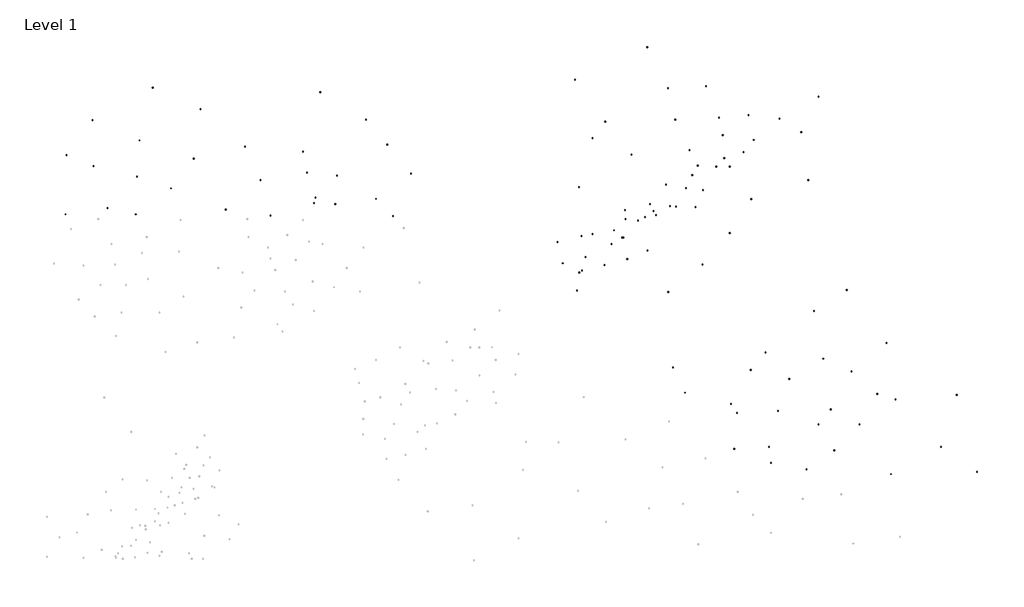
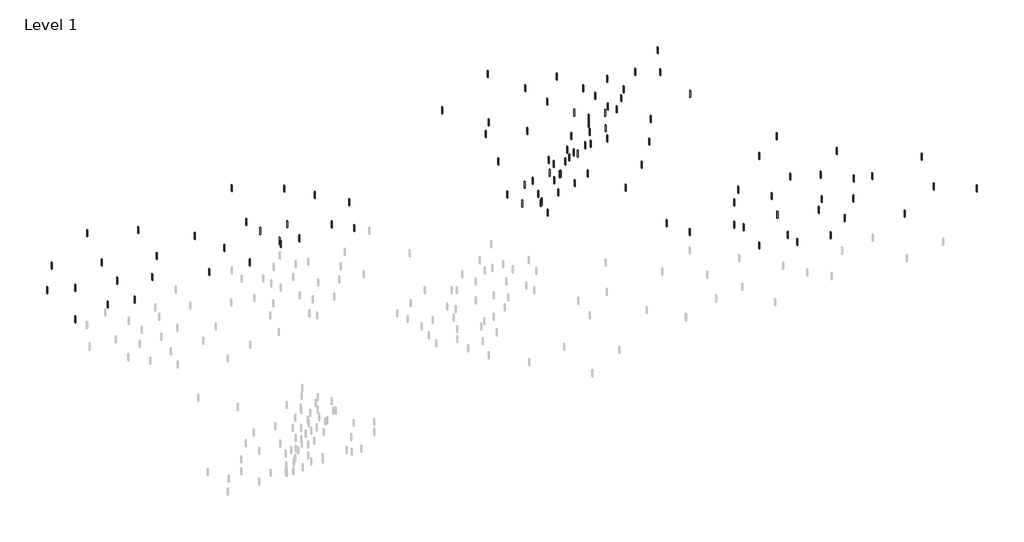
# One storey, part 3 of 3: 111 columns.
"""IFC4 building model written with IfcOpenShell, lengths in millimetres."""

from ifc_helpers import new_model, si_unit, origin, place, context, project, spatial, transform, mapped, element, save
from components import concrete_rectangular_column_12_x_18_4e544043

model = new_model("IFC4")

# Units and contexts
model_context = context("Model", 3, world=origin())
ifc_project = project(units=[si_unit("LENGTHUNIT", "METRE", prefix="MILLI")], contexts=[model_context])

# Site, building, storey
site = spatial("IfcSite", under=ifc_project)
building = spatial("IfcBuilding", under=site)
storey = spatial("IfcBuildingStorey", under=building, Name="Level 1", Elevation=0.0)

# Columns
placement = place(None, origin())
concrete_rectangular_column_12_x_18_shape = concrete_rectangular_column_12_x_18_4e544043(model_context)
element("IfcColumn", 1, ObjectType="Concrete-Rectangular-Column : 12 x 18", at=placement, inside=storey, context=model_context, shape_type="MappedRepresentation", body=[
    mapped(concrete_rectangular_column_12_x_18_shape, transform((331236.2656156, 171995.4418633, 0.0), x_axis=(1.0, 0.0, 0.0), y_axis=(0.0, 1.0, 0.0), z_axis=(0.0, 0.0, 1.0))),
])
element("IfcColumn", 2, ObjectType="Concrete-Rectangular-Column : 12 x 18", at=placement, inside=storey, context=model_context, shape_type="MappedRepresentation", body=[
    mapped(concrete_rectangular_column_12_x_18_shape, transform((381102.6694144, 178499.7554022, 0.0), x_axis=(1.0, 0.0, 0.0), y_axis=(0.0, 1.0, 0.0), z_axis=(0.0, 0.0, 1.0))),
])
element("IfcColumn", 3, ObjectType="Concrete-Rectangular-Column : 12 x 18", at=placement, inside=storey, context=model_context, shape_type="MappedRepresentation", body=[
    mapped(concrete_rectangular_column_12_x_18_shape, transform((393027.2442358, 211021.3230971, 0.0), x_axis=(1.0, 0.0, 0.0), y_axis=(0.0, 1.0, 0.0), z_axis=(0.0, 0.0, 1.0))),
])
element("IfcColumn", 4, ObjectType="Concrete-Rectangular-Column : 12 x 18", at=placement, inside=storey, context=model_context, shape_type="MappedRepresentation", body=[
    mapped(concrete_rectangular_column_12_x_18_shape, transform((461322.5363951, 170911.3896068, 0.0), x_axis=(1.0, 0.0, 0.0), y_axis=(0.0, 1.0, 0.0), z_axis=(0.0, 0.0, 1.0))),
])
element("IfcColumn", 5, ObjectType="Concrete-Rectangular-Column : 12 x 18", at=placement, inside=storey, context=model_context, shape_type="MappedRepresentation", body=[
    mapped(concrete_rectangular_column_12_x_18_shape, transform((453734.1705996, 145978.1877074, 0.0), x_axis=(1.0, 0.0, 0.0), y_axis=(0.0, 1.0, 0.0), z_axis=(0.0, 0.0, 1.0))),
])
element("IfcColumn", 6, ObjectType="Concrete-Rectangular-Column : 12 x 18", at=placement, inside=storey, context=model_context, shape_type="MappedRepresentation", body=[
    mapped(concrete_rectangular_column_12_x_18_shape, transform((429885.0209567, 132969.5606294, 0.0), x_axis=(1.0, 0.0, 0.0), y_axis=(0.0, 1.0, 0.0), z_axis=(0.0, 0.0, 1.0))),
])
element("IfcColumn", 7, ObjectType="Concrete-Rectangular-Column : 12 x 18", at=placement, inside=storey, context=model_context, shape_type="MappedRepresentation", body=[
    mapped(concrete_rectangular_column_12_x_18_shape, transform((414708.2893657, 156818.7102723, 0.0), x_axis=(1.0, 0.0, 0.0), y_axis=(0.0, 1.0, 0.0), z_axis=(0.0, 0.0, 1.0))),
])
element("IfcColumn", 8, ObjectType="Concrete-Rectangular-Column : 12 x 18", at=placement, inside=storey, context=model_context, shape_type="MappedRepresentation", body=[
    mapped(concrete_rectangular_column_12_x_18_shape, transform((432053.1254697, 168743.2850938, 0.0), x_axis=(1.0, 0.0, 0.0), y_axis=(0.0, 1.0, 0.0), z_axis=(0.0, 0.0, 1.0))),
])
element("IfcColumn", 9, ObjectType="Concrete-Rectangular-Column : 12 x 18", at=placement, inside=storey, context=model_context, shape_type="MappedRepresentation", body=[
    mapped(concrete_rectangular_column_12_x_18_shape, transform((397363.4532618, 188256.2257107, 0.0), x_axis=(1.0, 0.0, 0.0), y_axis=(0.0, 1.0, 0.0), z_axis=(0.0, 0.0, 1.0))),
])
element("IfcColumn", 10, ObjectType="Concrete-Rectangular-Column : 12 x 18", at=placement, inside=storey, context=model_context, shape_type="MappedRepresentation", body=[
    mapped(concrete_rectangular_column_12_x_18_shape, transform((375682.4081319, 163323.0238113, 0.0), x_axis=(1.0, 0.0, 0.0), y_axis=(0.0, 1.0, 0.0), z_axis=(0.0, 0.0, 1.0))),
])
element("IfcColumn", 11, ObjectType="Concrete-Rectangular-Column : 12 x 18", at=placement, inside=storey, context=model_context, shape_type="MappedRepresentation", body=[
    mapped(concrete_rectangular_column_12_x_18_shape, transform((371346.1991059, 145978.1877074, 0.0), x_axis=(1.0, 0.0, 0.0), y_axis=(0.0, 1.0, 0.0), z_axis=(0.0, 0.0, 1.0))),
])
element("IfcColumn", 12, ObjectType="Concrete-Rectangular-Column : 12 x 18", at=placement, inside=storey, context=model_context, shape_type="MappedRepresentation", body=[
    mapped(concrete_rectangular_column_12_x_18_shape, transform((356169.467515, 162238.9715548, 0.0), x_axis=(1.0, 0.0, 0.0), y_axis=(0.0, 1.0, 0.0), z_axis=(0.0, 0.0, 1.0))),
])
element("IfcColumn", 13, ObjectType="Concrete-Rectangular-Column : 12 x 18", at=placement, inside=storey, context=model_context, shape_type="MappedRepresentation", body=[
    mapped(concrete_rectangular_column_12_x_18_shape, transform((471079.0067035, 134053.6128859, 0.0), x_axis=(1.0, 0.0, 0.0), y_axis=(0.0, 1.0, 0.0), z_axis=(0.0, 0.0, 1.0))),
])
element("IfcColumn", 14, ObjectType="Concrete-Rectangular-Column : 12 x 18", at=placement, inside=storey, context=model_context, shape_type="MappedRepresentation", body=[
    mapped(concrete_rectangular_column_12_x_18_shape, transform((427716.9164437, 195844.5915062, 0.0), x_axis=(1.0, 0.0, 0.0), y_axis=(0.0, 1.0, 0.0), z_axis=(0.0, 0.0, 1.0))),
])
element("IfcColumn", 15, ObjectType="Concrete-Rectangular-Column : 12 x 18", at=placement, inside=storey, context=model_context, shape_type="MappedRepresentation", body=[
    mapped(concrete_rectangular_column_12_x_18_shape, transform((362673.781054, 182835.9644282, 0.0), x_axis=(1.0, 0.0, 0.0), y_axis=(0.0, 1.0, 0.0), z_axis=(0.0, 0.0, 1.0))),
])
element("IfcColumn", 16, ObjectType="Concrete-Rectangular-Column : 12 x 18", at=placement, inside=storey, context=model_context, shape_type="MappedRepresentation", body=[
    mapped(concrete_rectangular_column_12_x_18_shape, transform((372430.2513624, 138389.8219119, 0.0), x_axis=(1.0, 0.0, 0.0), y_axis=(0.0, 1.0, 0.0), z_axis=(0.0, 0.0, 1.0))),
])
element("IfcColumn", 17, ObjectType="Concrete-Rectangular-Column : 12 x 18", at=placement, inside=storey, context=model_context, shape_type="MappedRepresentation", body=[
    mapped(concrete_rectangular_column_12_x_18_shape, transform((395195.3487488, 156818.7102723, 0.0), x_axis=(1.0, 0.0, 0.0), y_axis=(0.0, 1.0, 0.0), z_axis=(0.0, 0.0, 1.0))),
])
element("IfcColumn", 18, ObjectType="Concrete-Rectangular-Column : 12 x 18", at=placement, inside=storey, context=model_context, shape_type="MappedRepresentation", body=[
    mapped(concrete_rectangular_column_12_x_18_shape, transform((325400.2702927, 184052.0542495, 0.0), x_axis=(1.0, 0.0, 0.0), y_axis=(0.0, 1.0, 0.0), z_axis=(0.0, 0.0, 1.0))),
])
element("IfcColumn", 19, ObjectType="Concrete-Rectangular-Column : 12 x 18", at=placement, inside=storey, context=model_context, shape_type="MappedRepresentation", body=[
    mapped(concrete_rectangular_column_12_x_18_shape, transform((35133.3520887, 285803.9430025, 0.0), x_axis=(1.0, 0.0, 0.0), y_axis=(0.0, 1.0, 0.0), z_axis=(0.0, 0.0, 1.0))),
])
element("IfcColumn", 20, ObjectType="Concrete-Rectangular-Column : 12 x 18", at=placement, inside=storey, context=model_context, shape_type="MappedRepresentation", body=[
    mapped(concrete_rectangular_column_12_x_18_shape, transform((68220.2581855, 257443.7161566, 0.0), x_axis=(1.0, 0.0, 0.0), y_axis=(0.0, 1.0, 0.0), z_axis=(0.0, 0.0, 1.0))),
])
element("IfcColumn", 21, ObjectType="Concrete-Rectangular-Column : 12 x 18", at=placement, inside=storey, context=model_context, shape_type="MappedRepresentation", body=[
    mapped(concrete_rectangular_column_12_x_18_shape, transform((69961.6742959, 292893.999714, 0.0), x_axis=(1.0, 0.0, 0.0), y_axis=(0.0, 1.0, 0.0), z_axis=(0.0, 0.0, 1.0))),
])
element("IfcColumn", 22, ObjectType="Concrete-Rectangular-Column : 12 x 18", at=placement, inside=storey, context=model_context, shape_type="MappedRepresentation", body=[
    mapped(concrete_rectangular_column_12_x_18_shape, transform((34552.8800519, 257443.7161566, 0.0), x_axis=(1.0, 0.0, 0.0), y_axis=(0.0, 1.0, 0.0), z_axis=(0.0, 0.0, 1.0))),
])
element("IfcColumn", 23, ObjectType="Concrete-Rectangular-Column : 12 x 18", at=placement, inside=storey, context=model_context, shape_type="MappedRepresentation", body=[
    mapped(concrete_rectangular_column_12_x_18_shape, transform((132652.6542689, 256898.3271788, 0.0), x_axis=(1.0, 0.0, 0.0), y_axis=(0.0, 1.0, 0.0), z_axis=(0.0, 0.0, 1.0))),
])
element("IfcColumn", 24, ObjectType="Concrete-Rectangular-Column : 12 x 18", at=placement, inside=storey, context=model_context, shape_type="MappedRepresentation", body=[
    mapped(concrete_rectangular_column_12_x_18_shape, transform((164578.6162922, 275986.941402, 0.0), x_axis=(1.0, 0.0, 0.0), y_axis=(0.0, 1.0, 0.0), z_axis=(0.0, 0.0, 1.0))),
])
element("IfcColumn", 25, ObjectType="Concrete-Rectangular-Column : 12 x 18", at=placement, inside=storey, context=model_context, shape_type="MappedRepresentation", body=[
    mapped(concrete_rectangular_column_12_x_18_shape, transform((128008.8779746, 273805.3854908, 0.0), x_axis=(1.0, 0.0, 0.0), y_axis=(0.0, 1.0, 0.0), z_axis=(0.0, 0.0, 1.0))),
])
element("IfcColumn", 26, ObjectType="Concrete-Rectangular-Column : 12 x 18", at=placement, inside=storey, context=model_context, shape_type="MappedRepresentation", body=[
    mapped(concrete_rectangular_column_12_x_18_shape, transform((148325.3992622, 287440.1099359, 0.0), x_axis=(1.0, 0.0, 0.0), y_axis=(0.0, 1.0, 0.0), z_axis=(0.0, 0.0, 1.0))),
])
element("IfcColumn", 27, ObjectType="Concrete-Rectangular-Column : 12 x 18", at=placement, inside=storey, context=model_context, shape_type="MappedRepresentation", body=[
    mapped(concrete_rectangular_column_12_x_18_shape, transform((153549.6475933, 262897.6059346, 0.0), x_axis=(1.0, 0.0, 0.0), y_axis=(0.0, 1.0, 0.0), z_axis=(0.0, 0.0, 1.0))),
])
element("IfcColumn", 28, ObjectType="Concrete-Rectangular-Column : 12 x 18", at=placement, inside=storey, context=model_context, shape_type="MappedRepresentation", body=[
    mapped(concrete_rectangular_column_12_x_18_shape, transform((163726.0692405, 262351.3973544, 0.0), x_axis=(1.0, 0.0, 0.0), y_axis=(0.0, 1.0, 0.0), z_axis=(0.0, 0.0, 1.0))),
])
element("IfcColumn", 29, ObjectType="Concrete-Rectangular-Column : 12 x 18", at=placement, inside=storey, context=model_context, shape_type="MappedRepresentation", body=[
    mapped(concrete_rectangular_column_12_x_18_shape, transform((154300.0967984, 265514.3536267, 0.0), x_axis=(1.0, 0.0, 0.0), y_axis=(0.0, 1.0, 0.0), z_axis=(0.0, 0.0, 1.0))),
])
element("IfcColumn", 30, ObjectType="Concrete-Rectangular-Column : 12 x 18", at=placement, inside=storey, context=model_context, shape_type="MappedRepresentation", body=[
    mapped(concrete_rectangular_column_12_x_18_shape, transform((150260.3943232, 277533.5874615, 0.0), x_axis=(1.0, 0.0, 0.0), y_axis=(0.0, 1.0, 0.0), z_axis=(0.0, 0.0, 1.0))),
])
element("IfcColumn", 31, ObjectType="Concrete-Rectangular-Column : 12 x 18", at=placement, inside=storey, context=model_context, shape_type="MappedRepresentation", body=[
    mapped(concrete_rectangular_column_12_x_18_shape, transform((178538.3116495, 302837.23764, 0.0), x_axis=(1.0, 0.0, 0.0), y_axis=(0.0, 1.0, 0.0), z_axis=(0.0, 0.0, 1.0))),
])
element("IfcColumn", 32, ObjectType="Concrete-Rectangular-Column : 12 x 18", at=placement, inside=storey, context=model_context, shape_type="MappedRepresentation", body=[
    mapped(concrete_rectangular_column_12_x_18_shape, transform((323088.3128112, 318012.5616179, 0.0), x_axis=(1.0, 0.0, 0.0), y_axis=(0.0, 1.0, 0.0), z_axis=(0.0, 0.0, 1.0))),
])
element("IfcColumn", 33, ObjectType="Concrete-Rectangular-Column : 12 x 18", at=placement, inside=storey, context=model_context, shape_type="MappedRepresentation", body=[
    mapped(concrete_rectangular_column_12_x_18_shape, transform((200083.3915172, 276900.996207, 0.0), x_axis=(1.0, 0.0, 0.0), y_axis=(0.0, 1.0, 0.0), z_axis=(0.0, 0.0, 1.0))),
])
element("IfcColumn", 34, ObjectType="Concrete-Rectangular-Column : 12 x 18", at=placement, inside=storey, context=model_context, shape_type="MappedRepresentation", body=[
    mapped(concrete_rectangular_column_12_x_18_shape, transform((191330.702821, 256658.0760642, 0.0), x_axis=(1.0, 0.0, 0.0), y_axis=(0.0, 1.0, 0.0), z_axis=(0.0, 0.0, 1.0))),
])
element("IfcColumn", 35, ObjectType="Concrete-Rectangular-Column : 12 x 18", at=placement, inside=storey, context=model_context, shape_type="MappedRepresentation", body=[
    mapped(concrete_rectangular_column_12_x_18_shape, transform((183251.2978706, 264881.7623722, 0.0), x_axis=(1.0, 0.0, 0.0), y_axis=(0.0, 1.0, 0.0), z_axis=(0.0, 0.0, 1.0))),
])
element("IfcColumn", 36, ObjectType="Concrete-Rectangular-Column : 12 x 18", at=placement, inside=storey, context=model_context, shape_type="MappedRepresentation", body=[
    mapped(concrete_rectangular_column_12_x_18_shape, transform((188637.5678375, 290818.0038052, 0.0), x_axis=(1.0, 0.0, 0.0), y_axis=(0.0, 1.0, 0.0), z_axis=(0.0, 0.0, 1.0))),
])
element("IfcColumn", 37, ObjectType="Concrete-Rectangular-Column : 12 x 18", at=placement, inside=storey, context=model_context, shape_type="MappedRepresentation", body=[
    mapped(concrete_rectangular_column_12_x_18_shape, transform((293022.5069207, 301897.699731, 0.0), x_axis=(1.0, 0.0, 0.0), y_axis=(0.0, 1.0, 0.0), z_axis=(0.0, 0.0, 1.0))),
])
element("IfcColumn", 38, ObjectType="Concrete-Rectangular-Column : 12 x 18", at=placement, inside=storey, context=model_context, shape_type="MappedRepresentation", body=[
    mapped(concrete_rectangular_column_12_x_18_shape, transform((68793.0610734, 275635.8136981, 0.0), x_axis=(1.0, 0.0, 0.0), y_axis=(0.0, 1.0, 0.0), z_axis=(0.0, 0.0, 1.0))),
])
element("IfcColumn", 39, ObjectType="Concrete-Rectangular-Column : 12 x 18", at=placement, inside=storey, context=model_context, shape_type="MappedRepresentation", body=[
    mapped(concrete_rectangular_column_12_x_18_shape, transform((54654.1024102, 260453.623591, 0.0), x_axis=(1.0, 0.0, 0.0), y_axis=(0.0, 1.0, 0.0), z_axis=(0.0, 0.0, 1.0))),
])
element("IfcColumn", 40, ObjectType="Concrete-Rectangular-Column : 12 x 18", at=placement, inside=storey, context=model_context, shape_type="MappedRepresentation", body=[
    mapped(concrete_rectangular_column_12_x_18_shape, transform((316094.4445972, 258958.9489747, 0.0), x_axis=(1.0, 0.0, 0.0), y_axis=(0.0, 1.0, 0.0), z_axis=(0.0, 0.0, 1.0))),
])
element("IfcColumn", 41, ObjectType="Concrete-Rectangular-Column : 12 x 18", at=placement, inside=storey, context=model_context, shape_type="MappedRepresentation", body=[
    mapped(concrete_rectangular_column_12_x_18_shape, transform((305606.372775, 286031.9169447, 0.0), x_axis=(1.0, 0.0, 0.0), y_axis=(0.0, 1.0, 0.0), z_axis=(0.0, 0.0, 1.0))),
])
element("IfcColumn", 42, ObjectType="Concrete-Rectangular-Column : 12 x 18", at=placement, inside=storey, context=model_context, shape_type="MappedRepresentation", body=[
    mapped(concrete_rectangular_column_12_x_18_shape, transform((280435.0004016, 270561.6495333, 0.0), x_axis=(1.0, 0.0, 0.0), y_axis=(0.0, 1.0, 0.0), z_axis=(0.0, 0.0, 1.0))),
])
element("IfcColumn", 43, ObjectType="Concrete-Rectangular-Column : 12 x 18", at=placement, inside=storey, context=model_context, shape_type="MappedRepresentation", body=[
    mapped(concrete_rectangular_column_12_x_18_shape, transform((390210.1521411, 273784.6219106, 0.0), x_axis=(1.0, 0.0, 0.0), y_axis=(0.0, 1.0, 0.0), z_axis=(0.0, 0.0, 1.0))),
])
element("IfcColumn", 44, ObjectType="Concrete-Rectangular-Column : 12 x 18", at=placement, inside=storey, context=model_context, shape_type="MappedRepresentation", body=[
    mapped(concrete_rectangular_column_12_x_18_shape, transform((395104.5856581, 313749.4793902, 0.0), x_axis=(1.0, 0.0, 0.0), y_axis=(0.0, 1.0, 0.0), z_axis=(0.0, 0.0, 1.0))),
])
element("IfcColumn", 45, ObjectType="Concrete-Rectangular-Column : 12 x 18", at=placement, inside=storey, context=model_context, shape_type="MappedRepresentation", body=[
    mapped(concrete_rectangular_column_12_x_18_shape, transform((362941.1654032, 264760.299254, 0.0), x_axis=(1.0, 0.0, 0.0), y_axis=(0.0, 1.0, 0.0), z_axis=(0.0, 0.0, 1.0))),
])
element("IfcColumn", 46, ObjectType="Concrete-Rectangular-Column : 12 x 18", at=placement, inside=storey, context=model_context, shape_type="MappedRepresentation", body=[
    mapped(concrete_rectangular_column_12_x_18_shape, transform((369659.3234416, 191256.0739077, 0.0), x_axis=(1.0, 0.0, 0.0), y_axis=(0.0, 1.0, 0.0), z_axis=(0.0, 0.0, 1.0))),
])
element("IfcColumn", 47, ObjectType="Concrete-Rectangular-Column : 12 x 18", at=placement, inside=storey, context=model_context, shape_type="MappedRepresentation", body=[
    mapped(concrete_rectangular_column_12_x_18_shape, transform((401008.1059618, 164032.1311928, 0.0), x_axis=(1.0, 0.0, 0.0), y_axis=(0.0, 1.0, 0.0), z_axis=(0.0, 0.0, 1.0))),
])
element("IfcColumn", 48, ObjectType="Concrete-Rectangular-Column : 12 x 18", at=placement, inside=storey, context=model_context, shape_type="MappedRepresentation", body=[
    mapped(concrete_rectangular_column_12_x_18_shape, transform((353159.9642205, 166507.035076, 0.0), x_axis=(1.0, 0.0, 0.0), y_axis=(0.0, 1.0, 0.0), z_axis=(0.0, 0.0, 1.0))),
])
element("IfcColumn", 49, ObjectType="Concrete-Rectangular-Column : 12 x 18", at=placement, inside=storey, context=model_context, shape_type="MappedRepresentation", body=[
    mapped(concrete_rectangular_column_12_x_18_shape, transform((354809.9001426, 145057.8680885, 0.0), x_axis=(1.0, 0.0, 0.0), y_axis=(0.0, 1.0, 0.0), z_axis=(0.0, 0.0, 1.0))),
])
element("IfcColumn", 50, ObjectType="Concrete-Rectangular-Column : 12 x 18", at=placement, inside=storey, context=model_context, shape_type="MappedRepresentation", body=[
    mapped(concrete_rectangular_column_12_x_18_shape, transform((402658.0418839, 144232.9001274, 0.0), x_axis=(1.0, 0.0, 0.0), y_axis=(0.0, 1.0, 0.0), z_axis=(0.0, 0.0, 1.0))),
])
element("IfcColumn", 51, ObjectType="Concrete-Rectangular-Column : 12 x 18", at=placement, inside=storey, context=model_context, shape_type="MappedRepresentation", body=[
    mapped(concrete_rectangular_column_12_x_18_shape, transform((389458.554507, 135158.2525558, 0.0), x_axis=(1.0, 0.0, 0.0), y_axis=(0.0, 1.0, 0.0), z_axis=(0.0, 0.0, 1.0))),
])
element("IfcColumn", 52, ObjectType="Concrete-Rectangular-Column : 12 x 18", at=placement, inside=storey, context=model_context, shape_type="MappedRepresentation", body=[
    mapped(concrete_rectangular_column_12_x_18_shape, transform((423282.2409104, 171456.8428423, 0.0), x_axis=(1.0, 0.0, 0.0), y_axis=(0.0, 1.0, 0.0), z_axis=(0.0, 0.0, 1.0))),
])
element("IfcColumn", 53, ObjectType="Concrete-Rectangular-Column : 12 x 18", at=placement, inside=storey, context=model_context, shape_type="MappedRepresentation", body=[
    mapped(concrete_rectangular_column_12_x_18_shape, transform((410907.7214945, 182181.4263361, 0.0), x_axis=(1.0, 0.0, 0.0), y_axis=(0.0, 1.0, 0.0), z_axis=(0.0, 0.0, 1.0))),
])
element("IfcColumn", 54, ObjectType="Concrete-Rectangular-Column : 12 x 18", at=placement, inside=storey, context=model_context, shape_type="MappedRepresentation", body=[
    mapped(concrete_rectangular_column_12_x_18_shape, transform((281833.4099779, 230596.7920537, 0.0), x_axis=(1.0, 0.0, 0.0), y_axis=(0.0, 1.0, 0.0), z_axis=(0.0, 0.0, 1.0))),
])
element("IfcColumn", 55, ObjectType="Concrete-Rectangular-Column : 12 x 18", at=placement, inside=storey, context=model_context, shape_type="MappedRepresentation", body=[
    mapped(concrete_rectangular_column_12_x_18_shape, transform((302761.1763556, 255238.1331991, 0.0), x_axis=(1.0, 0.0, 0.0), y_axis=(0.0, 1.0, 0.0), z_axis=(0.0, 0.0, 1.0))),
])
element("IfcColumn", 56, ObjectType="Concrete-Rectangular-Column : 12 x 18", at=placement, inside=storey, context=model_context, shape_type="MappedRepresentation", body=[
    mapped(concrete_rectangular_column_12_x_18_shape, transform((323149.9879781, 220255.9910149, 0.0), x_axis=(1.0, 0.0, 0.0), y_axis=(0.0, 1.0, 0.0), z_axis=(0.0, 0.0, 1.0))),
])
element("IfcColumn", 57, ObjectType="Concrete-Rectangular-Column : 12 x 18", at=placement, inside=storey, context=model_context, shape_type="MappedRepresentation", body=[
    mapped(concrete_rectangular_column_12_x_18_shape, transform((286903.2117604, 293875.1260591, 0.0), x_axis=(1.0, 0.0, 0.0), y_axis=(0.0, 1.0, 0.0), z_axis=(0.0, 0.0, 1.0))),
])
element("IfcColumn", 58, ObjectType="Concrete-Rectangular-Column : 12 x 18", at=placement, inside=storey, context=model_context, shape_type="MappedRepresentation", body=[
    mapped(concrete_rectangular_column_12_x_18_shape, transform((347503.2907493, 303795.4350367, 0.0), x_axis=(1.0, 0.0, 0.0), y_axis=(0.0, 1.0, 0.0), z_axis=(0.0, 0.0, 1.0))),
])
element("IfcColumn", 59, ObjectType="Concrete-Rectangular-Column : 12 x 18", at=placement, inside=storey, context=model_context, shape_type="MappedRepresentation", body=[
    mapped(concrete_rectangular_column_12_x_18_shape, transform((337308.8849381, 280822.0879307, 0.0), x_axis=(1.0, 0.0, 0.0), y_axis=(0.0, 1.0, 0.0), z_axis=(0.0, 0.0, 1.0))),
])
element("IfcColumn", 60, ObjectType="Concrete-Rectangular-Column : 12 x 18", at=placement, inside=storey, context=model_context, shape_type="MappedRepresentation", body=[
    mapped(concrete_rectangular_column_12_x_18_shape, transform((326548.1232485, 302751.1919865, 0.0), x_axis=(1.0, 0.0, 0.0), y_axis=(0.0, 1.0, 0.0), z_axis=(0.0, 0.0, 1.0))),
])
element("IfcColumn", 61, ObjectType="Concrete-Rectangular-Column : 12 x 18", at=placement, inside=storey, context=model_context, shape_type="MappedRepresentation", body=[
    mapped(concrete_rectangular_column_12_x_18_shape, transform((341273.3760869, 318936.9592657, 0.0), x_axis=(1.0, 0.0, 0.0), y_axis=(0.0, 1.0, 0.0), z_axis=(0.0, 0.0, 1.0))),
])
element("IfcColumn", 62, ObjectType="Concrete-Rectangular-Column : 12 x 18", at=placement, inside=storey, context=model_context, shape_type="MappedRepresentation", body=[
    mapped(concrete_rectangular_column_12_x_18_shape, transform((313146.1877921, 337645.4036888, 0.0), x_axis=(1.0, 0.0, 0.0), y_axis=(0.0, 1.0, 0.0), z_axis=(0.0, 0.0, 1.0))),
])
element("IfcColumn", 63, ObjectType="Concrete-Rectangular-Column : 12 x 18", at=placement, inside=storey, context=model_context, shape_type="MappedRepresentation", body=[
    mapped(concrete_rectangular_column_12_x_18_shape, transform((278598.4792096, 321981.7579347, 0.0), x_axis=(1.0, 0.0, 0.0), y_axis=(0.0, 1.0, 0.0), z_axis=(0.0, 0.0, 1.0))),
])
element("IfcColumn", 64, ObjectType="Concrete-Rectangular-Column : 12 x 18", at=placement, inside=storey, context=model_context, shape_type="MappedRepresentation", body=[
    mapped(concrete_rectangular_column_12_x_18_shape, transform((156542.677718, 316012.6358556, 0.0), x_axis=(1.0, 0.0, 0.0), y_axis=(0.0, 1.0, 0.0), z_axis=(0.0, 0.0, 1.0))),
])
element("IfcColumn", 65, ObjectType="Concrete-Rectangular-Column : 12 x 18", at=placement, inside=storey, context=model_context, shape_type="MappedRepresentation", body=[
    mapped(concrete_rectangular_column_12_x_18_shape, transform((96007.7361272, 284243.9030565, 0.0), x_axis=(1.0, 0.0, 0.0), y_axis=(0.0, 1.0, 0.0), z_axis=(0.0, 0.0, 1.0))),
])
element("IfcColumn", 66, ObjectType="Concrete-Rectangular-Column : 12 x 18", at=placement, inside=storey, context=model_context, shape_type="MappedRepresentation", body=[
    mapped(concrete_rectangular_column_12_x_18_shape, transform((111277.8114835, 259648.755083, 0.0), x_axis=(1.0, 0.0, 0.0), y_axis=(0.0, 1.0, 0.0), z_axis=(0.0, 0.0, 1.0))),
])
element("IfcColumn", 67, ObjectType="Concrete-Rectangular-Column : 12 x 18", at=placement, inside=storey, context=model_context, shape_type="MappedRepresentation", body=[
    mapped(concrete_rectangular_column_12_x_18_shape, transform((120548.9286641, 289880.2911337, 0.0), x_axis=(1.0, 0.0, 0.0), y_axis=(0.0, 1.0, 0.0), z_axis=(0.0, 0.0, 1.0))),
])
element("IfcColumn", 68, ObjectType="Concrete-Rectangular-Column : 12 x 18", at=placement, inside=storey, context=model_context, shape_type="MappedRepresentation", body=[
    mapped(concrete_rectangular_column_12_x_18_shape, transform((99279.8951322, 307814.2531977, 0.0), x_axis=(1.0, 0.0, 0.0), y_axis=(0.0, 1.0, 0.0), z_axis=(0.0, 0.0, 1.0))),
])
element("IfcColumn", 69, ObjectType="Concrete-Rectangular-Column : 12 x 18", at=placement, inside=storey, context=model_context, shape_type="MappedRepresentation", body=[
    mapped(concrete_rectangular_column_12_x_18_shape, transform((85100.5394442, 269896.7334053, 0.0), x_axis=(1.0, 0.0, 0.0), y_axis=(0.0, 1.0, 0.0), z_axis=(0.0, 0.0, 1.0))),
])
element("IfcColumn", 70, ObjectType="Concrete-Rectangular-Column : 12 x 18", at=placement, inside=storey, context=model_context, shape_type="MappedRepresentation", body=[
    mapped(concrete_rectangular_column_12_x_18_shape, transform((76374.7820978, 318062.23152, 0.0), x_axis=(1.0, 0.0, 0.0), y_axis=(0.0, 1.0, 0.0), z_axis=(0.0, 0.0, 1.0))),
])
element("IfcColumn", 71, ObjectType="Concrete-Rectangular-Column : 12 x 18", at=placement, inside=storey, context=model_context, shape_type="MappedRepresentation", body=[
    mapped(concrete_rectangular_column_12_x_18_shape, transform((47470.7108878, 302690.2640366, 0.0), x_axis=(1.0, 0.0, 0.0), y_axis=(0.0, 1.0, 0.0), z_axis=(0.0, 0.0, 1.0))),
])
element("IfcColumn", 72, ObjectType="Concrete-Rectangular-Column : 12 x 18", at=placement, inside=storey, context=model_context, shape_type="MappedRepresentation", body=[
    mapped(concrete_rectangular_column_12_x_18_shape, transform((48016.0707219, 280657.1106437, 0.0), x_axis=(1.0, 0.0, 0.0), y_axis=(0.0, 1.0, 0.0), z_axis=(0.0, 0.0, 1.0))),
])
element("IfcColumn", 73, ObjectType="Concrete-Rectangular-Column : 12 x 18", at=placement, inside=storey, context=model_context, shape_type="MappedRepresentation", body=[
    mapped(concrete_rectangular_column_12_x_18_shape, transform((339574.3084517, 233309.0291433, 0.0), x_axis=(1.0, 0.0, 0.0), y_axis=(0.0, 1.0, 0.0), z_axis=(0.0, 0.0, 1.0))),
])
element("IfcColumn", 74, ObjectType="Concrete-Rectangular-Column : 12 x 18", at=placement, inside=storey, context=model_context, shape_type="MappedRepresentation", body=[
    mapped(concrete_rectangular_column_12_x_18_shape, transform((336176.1731813, 260981.4699756, 0.0), x_axis=(1.0, 0.0, 0.0), y_axis=(0.0, 1.0, 0.0), z_axis=(0.0, 0.0, 1.0))),
])
element("IfcColumn", 75, ObjectType="Concrete-Rectangular-Column : 12 x 18", at=placement, inside=storey, context=model_context, shape_type="MappedRepresentation", body=[
    mapped(concrete_rectangular_column_12_x_18_shape, transform((352600.4936549, 248450.5533723, 0.0), x_axis=(1.0, 0.0, 0.0), y_axis=(0.0, 1.0, 0.0), z_axis=(0.0, 0.0, 1.0))),
])
element("IfcColumn", 76, ObjectType="Concrete-Rectangular-Column : 12 x 18", at=placement, inside=storey, context=model_context, shape_type="MappedRepresentation", body=[
    mapped(concrete_rectangular_column_12_x_18_shape, transform((408669.7256166, 221288.6189328, 0.0), x_axis=(1.0, 0.0, 0.0), y_axis=(0.0, 1.0, 0.0), z_axis=(0.0, 0.0, 1.0))),
])
element("IfcColumn", 77, ObjectType="Concrete-Rectangular-Column : 12 x 18", at=placement, inside=storey, context=model_context, shape_type="MappedRepresentation", body=[
    mapped(concrete_rectangular_column_12_x_18_shape, transform((279481.8547028, 220907.8469684, 0.0), x_axis=(1.0, 0.0, 0.0), y_axis=(0.0, 1.0, 0.0), z_axis=(0.0, 0.0, 1.0))),
])
element("IfcColumn", 78, ObjectType="Concrete-Rectangular-Column : 12 x 18", at=placement, inside=storey, context=model_context, shape_type="MappedRepresentation", body=[
    mapped(concrete_rectangular_column_12_x_18_shape, transform((280578.6063878, 229647.5317825, 0.0), x_axis=(1.0, 0.0, 0.0), y_axis=(0.0, 1.0, 0.0), z_axis=(0.0, 0.0, 1.0))),
])
element("IfcColumn", 79, ObjectType="Concrete-Rectangular-Column : 12 x 18", at=placement, inside=storey, context=model_context, shape_type="MappedRepresentation", body=[
    mapped(concrete_rectangular_column_12_x_18_shape, transform((333276.7346966, 288296.7845061, 0.0), x_axis=(1.0, 0.0, 0.0), y_axis=(0.0, 1.0, 0.0), z_axis=(0.0, 0.0, 1.0))),
])
element("IfcColumn", 80, ObjectType="Concrete-Rectangular-Column : 12 x 18", at=placement, inside=storey, context=model_context, shape_type="MappedRepresentation", body=[
    mapped(concrete_rectangular_column_12_x_18_shape, transform((350008.2682337, 284494.0846827, 0.0), x_axis=(1.0, 0.0, 0.0), y_axis=(0.0, 1.0, 0.0), z_axis=(0.0, 0.0, 1.0))),
])
element("IfcColumn", 81, ObjectType="Concrete-Rectangular-Column : 12 x 18", at=placement, inside=storey, context=model_context, shape_type="MappedRepresentation", body=[
    mapped(concrete_rectangular_column_12_x_18_shape, transform((349274.4469, 295418.778171, 0.0), x_axis=(1.0, 0.0, 0.0), y_axis=(0.0, 1.0, 0.0), z_axis=(0.0, 0.0, 1.0))),
])
element("IfcColumn", 82, ObjectType="Concrete-Rectangular-Column : 12 x 18", at=placement, inside=storey, context=model_context, shape_type="MappedRepresentation", body=[
    mapped(concrete_rectangular_column_12_x_18_shape, transform((361593.8232653, 305051.0191975, 0.0), x_axis=(1.0, 0.0, 0.0), y_axis=(0.0, 1.0, 0.0), z_axis=(0.0, 0.0, 1.0))),
])
element("IfcColumn", 83, ObjectType="Concrete-Rectangular-Column : 12 x 18", at=placement, inside=storey, context=model_context, shape_type="MappedRepresentation", body=[
    mapped(concrete_rectangular_column_12_x_18_shape, transform((386857.2478147, 296864.0708553, 0.0), x_axis=(1.0, 0.0, 0.0), y_axis=(0.0, 1.0, 0.0), z_axis=(0.0, 0.0, 1.0))),
])
element("IfcColumn", 84, ObjectType="Concrete-Rectangular-Column : 12 x 18", at=placement, inside=storey, context=model_context, shape_type="MappedRepresentation", body=[
    mapped(concrete_rectangular_column_12_x_18_shape, transform((376437.3982263, 303304.4572317, 0.0), x_axis=(1.0, 0.0, 0.0), y_axis=(0.0, 1.0, 0.0), z_axis=(0.0, 0.0, 1.0))),
])
element("IfcColumn", 85, ObjectType="Concrete-Rectangular-Column : 12 x 18", at=placement, inside=storey, context=model_context, shape_type="MappedRepresentation", body=[
    mapped(concrete_rectangular_column_12_x_18_shape, transform((359231.1539398, 287311.1437943, 0.0), x_axis=(1.0, 0.0, 0.0), y_axis=(0.0, 1.0, 0.0), z_axis=(0.0, 0.0, 1.0))),
])
element("IfcColumn", 86, ObjectType="Concrete-Rectangular-Column : 12 x 18", at=placement, inside=storey, context=model_context, shape_type="MappedRepresentation", body=[
    mapped(concrete_rectangular_column_12_x_18_shape, transform((331594.1312867, 270112.9096755, 0.0), x_axis=(1.0, 0.0, 0.0), y_axis=(0.0, 1.0, 0.0), z_axis=(0.0, 0.0, 1.0))),
])
element("IfcColumn", 87, ObjectType="Concrete-Rectangular-Column : 12 x 18", at=placement, inside=storey, context=model_context, shape_type="MappedRepresentation", body=[
    mapped(concrete_rectangular_column_12_x_18_shape, transform((326940.045764, 261062.2009233, 0.0), x_axis=(1.0, 0.0, 0.0), y_axis=(0.0, 1.0, 0.0), z_axis=(0.0, 0.0, 1.0))),
])
element("IfcColumn", 88, ObjectType="Concrete-Rectangular-Column : 12 x 18", at=placement, inside=storey, context=model_context, shape_type="MappedRepresentation", body=[
    mapped(concrete_rectangular_column_12_x_18_shape, transform((334689.2713551, 276337.8509655, 0.0), x_axis=(1.0, 0.0, 0.0), y_axis=(0.0, 1.0, 0.0), z_axis=(0.0, 0.0, 1.0))),
])
element("IfcColumn", 89, ObjectType="Concrete-Rectangular-Column : 12 x 18", at=placement, inside=storey, context=model_context, shape_type="MappedRepresentation", body=[
    mapped(concrete_rectangular_column_12_x_18_shape, transform((346168.2178451, 280399.3088586, 0.0), x_axis=(1.0, 0.0, 0.0), y_axis=(0.0, 1.0, 0.0), z_axis=(0.0, 0.0, 1.0))),
])
element("IfcColumn", 90, ObjectType="Concrete-Rectangular-Column : 12 x 18", at=placement, inside=storey, context=model_context, shape_type="MappedRepresentation", body=[
    mapped(concrete_rectangular_column_12_x_18_shape, transform((364143.367663, 293130.1685611, 0.0), x_axis=(1.0, 0.0, 0.0), y_axis=(0.0, 1.0, 0.0), z_axis=(0.0, 0.0, 1.0))),
])
element("IfcColumn", 91, ObjectType="Concrete-Rectangular-Column : 12 x 18", at=placement, inside=storey, context=model_context, shape_type="MappedRepresentation", body=[
    mapped(concrete_rectangular_column_12_x_18_shape, transform((352642.0105589, 280289.9327353, 0.0), x_axis=(1.0, 0.0, 0.0), y_axis=(0.0, 1.0, 0.0), z_axis=(0.0, 0.0, 1.0))),
])
element("IfcColumn", 92, ObjectType="Concrete-Rectangular-Column : 12 x 18", at=placement, inside=storey, context=model_context, shape_type="MappedRepresentation", body=[
    mapped(concrete_rectangular_column_12_x_18_shape, transform((339890.3842325, 269035.2597634, 0.0), x_axis=(1.0, 0.0, 0.0), y_axis=(0.0, 1.0, 0.0), z_axis=(0.0, 0.0, 1.0))),
])
element("IfcColumn", 93, ObjectType="Concrete-Rectangular-Column : 12 x 18", at=placement, inside=storey, context=model_context, shape_type="MappedRepresentation", body=[
    mapped(concrete_rectangular_column_12_x_18_shape, transform((323981.6252126, 261407.4443989, 0.0), x_axis=(1.0, 0.0, 0.0), y_axis=(0.0, 1.0, 0.0), z_axis=(0.0, 0.0, 1.0))),
])
element("IfcColumn", 94, ObjectType="Concrete-Rectangular-Column : 12 x 18", at=placement, inside=storey, context=model_context, shape_type="MappedRepresentation", body=[
    mapped(concrete_rectangular_column_12_x_18_shape, transform((308640.2362781, 254372.1542975, 0.0), x_axis=(1.0, 0.0, 0.0), y_axis=(0.0, 1.0, 0.0), z_axis=(0.0, 0.0, 1.0))),
])
element("IfcColumn", 95, ObjectType="Concrete-Rectangular-Column : 12 x 18", at=placement, inside=storey, context=model_context, shape_type="MappedRepresentation", body=[
    mapped(concrete_rectangular_column_12_x_18_shape, transform((297243.6375598, 249788.6356344, 0.0), x_axis=(1.0, 0.0, 0.0), y_axis=(0.0, 1.0, 0.0), z_axis=(0.0, 0.0, 1.0))),
])
element("IfcColumn", 96, ObjectType="Concrete-Rectangular-Column : 12 x 18", at=placement, inside=storey, context=model_context, shape_type="MappedRepresentation", body=[
    mapped(concrete_rectangular_column_12_x_18_shape, transform((281611.6234779, 247097.7455435, 0.0), x_axis=(1.0, 0.0, 0.0), y_axis=(0.0, 1.0, 0.0), z_axis=(0.0, 0.0, 1.0))),
])
element("IfcColumn", 97, ObjectType="Concrete-Rectangular-Column : 12 x 18", at=placement, inside=storey, context=model_context, shape_type="MappedRepresentation", body=[
    mapped(concrete_rectangular_column_12_x_18_shape, transform((270109.2870362, 244143.0270137, 0.0), x_axis=(1.0, 0.0, 0.0), y_axis=(0.0, 1.0, 0.0), z_axis=(0.0, 0.0, 1.0))),
])
element("IfcColumn", 98, ObjectType="Concrete-Rectangular-Column : 12 x 18", at=placement, inside=storey, context=model_context, shape_type="MappedRepresentation", body=[
    mapped(concrete_rectangular_column_12_x_18_shape, transform((292606.8754139, 233173.0258422, 0.0), x_axis=(1.0, 0.0, 0.0), y_axis=(0.0, 1.0, 0.0), z_axis=(0.0, 0.0, 1.0))),
])
element("IfcColumn", 99, ObjectType="Concrete-Rectangular-Column : 12 x 18", at=placement, inside=storey, context=model_context, shape_type="MappedRepresentation", body=[
    mapped(concrete_rectangular_column_12_x_18_shape, transform((303516.2874289, 236081.6794512, 0.0), x_axis=(1.0, 0.0, 0.0), y_axis=(0.0, 1.0, 0.0), z_axis=(0.0, 0.0, 1.0))),
])
element("IfcColumn", 100, ObjectType="Concrete-Rectangular-Column : 12 x 18", at=placement, inside=storey, context=model_context, shape_type="MappedRepresentation", body=[
    mapped(concrete_rectangular_column_12_x_18_shape, transform((301603.7338234, 246274.8255535, 0.0), x_axis=(1.0, 0.0, 0.0), y_axis=(0.0, 1.0, 0.0), z_axis=(0.0, 0.0, 1.0))),
])
element("IfcColumn", 101, ObjectType="Concrete-Rectangular-Column : 12 x 18", at=placement, inside=storey, context=model_context, shape_type="MappedRepresentation", body=[
    mapped(concrete_rectangular_column_12_x_18_shape, transform((314520.0510399, 262403.8776947, 0.0), x_axis=(1.0, 0.0, 0.0), y_axis=(0.0, 1.0, 0.0), z_axis=(0.0, 0.0, 1.0))),
])
element("IfcColumn", 102, ObjectType="Concrete-Rectangular-Column : 12 x 18", at=placement, inside=storey, context=model_context, shape_type="MappedRepresentation", body=[
    mapped(concrete_rectangular_column_12_x_18_shape, transform((317242.0296788, 257134.1627362, 0.0), x_axis=(1.0, 0.0, 0.0), y_axis=(0.0, 1.0, 0.0), z_axis=(0.0, 0.0, 1.0))),
])
element("IfcColumn", 103, ObjectType="Concrete-Rectangular-Column : 12 x 18", at=placement, inside=storey, context=model_context, shape_type="MappedRepresentation", body=[
    mapped(concrete_rectangular_column_12_x_18_shape, transform((313188.1336574, 239993.6038409, 0.0), x_axis=(1.0, 0.0, 0.0), y_axis=(0.0, 1.0, 0.0), z_axis=(0.0, 0.0, 1.0))),
])
element("IfcColumn", 104, ObjectType="Concrete-Rectangular-Column : 12 x 18", at=placement, inside=storey, context=model_context, shape_type="MappedRepresentation", body=[
    mapped(concrete_rectangular_column_12_x_18_shape, transform((283547.1599941, 236901.2538401, 0.0), x_axis=(1.0, 0.0, 0.0), y_axis=(0.0, 1.0, 0.0), z_axis=(0.0, 0.0, 1.0))),
])
element("IfcColumn", 105, ObjectType="Concrete-Rectangular-Column : 12 x 18", at=placement, inside=storey, context=model_context, shape_type="MappedRepresentation", body=[
    mapped(concrete_rectangular_column_12_x_18_shape, transform((286821.6760074, 247994.6023818, 0.0), x_axis=(1.0, 0.0, 0.0), y_axis=(0.0, 1.0, 0.0), z_axis=(0.0, 0.0, 1.0))),
])
element("IfcColumn", 106, ObjectType="Concrete-Rectangular-Column : 12 x 18", at=placement, inside=storey, context=model_context, shape_type="MappedRepresentation", body=[
    mapped(concrete_rectangular_column_12_x_18_shape, transform((302409.4155499, 259401.769736, 0.0), x_axis=(1.0, 0.0, 0.0), y_axis=(0.0, 1.0, 0.0), z_axis=(0.0, 0.0, 1.0))),
])
element("IfcColumn", 107, ObjectType="Concrete-Rectangular-Column : 12 x 18", at=placement, inside=storey, context=model_context, shape_type="MappedRepresentation", body=[
    mapped(concrete_rectangular_column_12_x_18_shape, transform((322087.2063851, 271655.9245678, 0.0), x_axis=(1.0, 0.0, 0.0), y_axis=(0.0, 1.0, 0.0), z_axis=(0.0, 0.0, 1.0))),
])
element("IfcColumn", 108, ObjectType="Concrete-Rectangular-Column : 12 x 18", at=placement, inside=storey, context=model_context, shape_type="MappedRepresentation", body=[
    mapped(concrete_rectangular_column_12_x_18_shape, transform((312026.1446738, 256236.069967, 0.0), x_axis=(1.0, 0.0, 0.0), y_axis=(0.0, 1.0, 0.0), z_axis=(0.0, 0.0, 1.0))),
])
element("IfcColumn", 109, ObjectType="Concrete-Rectangular-Column : 12 x 18", at=placement, inside=storey, context=model_context, shape_type="MappedRepresentation", body=[
    mapped(concrete_rectangular_column_12_x_18_shape, transform((301020.5033274, 246235.3478027, 0.0), x_axis=(1.0, 0.0, 0.0), y_axis=(0.0, 1.0, 0.0), z_axis=(0.0, 0.0, 1.0))),
])
element("IfcColumn", 110, ObjectType="Concrete-Rectangular-Column : 12 x 18", at=placement, inside=storey, context=model_context, shape_type="MappedRepresentation", body=[
    mapped(concrete_rectangular_column_12_x_18_shape, transform((295970.0088919, 243174.7580636, 0.0), x_axis=(1.0, 0.0, 0.0), y_axis=(0.0, 1.0, 0.0), z_axis=(0.0, 0.0, 1.0))),
])
element("IfcColumn", 111, ObjectType="Concrete-Rectangular-Column : 12 x 18", at=placement, inside=storey, context=model_context, shape_type="MappedRepresentation", body=[
    mapped(concrete_rectangular_column_12_x_18_shape, transform((272639.8968212, 233991.7159457, 0.0), x_axis=(1.0, 0.0, 0.0), y_axis=(0.0, 1.0, 0.0), z_axis=(0.0, 0.0, 1.0))),
])

save(model, "model.ifc")
